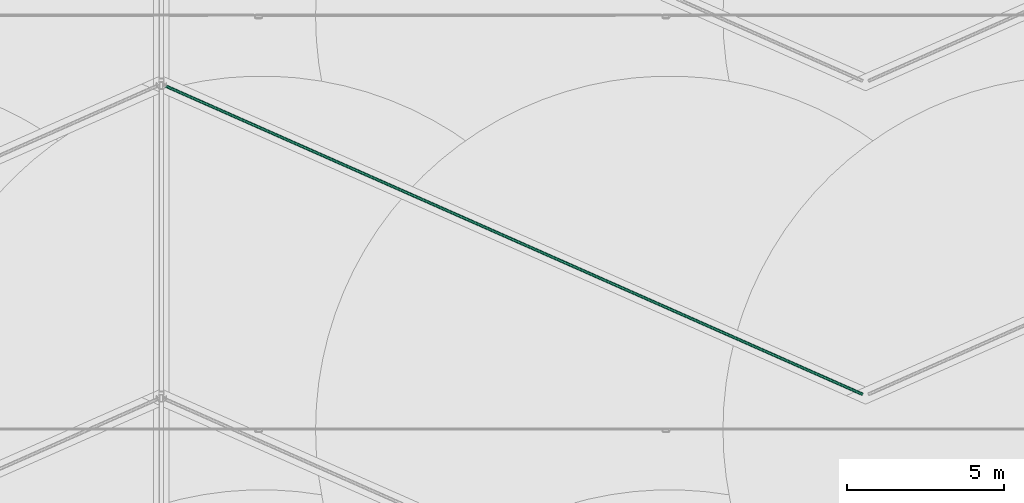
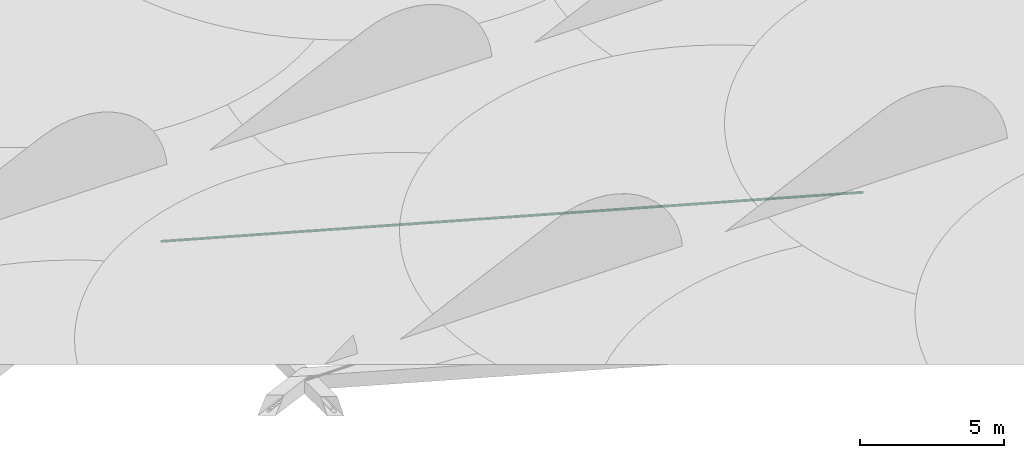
# One storey, part 21 of 166: 1 flow segment.
"""IFC2X3 building model written with IfcOpenShell, lengths in metres."""

from ifc_helpers import new_model, entity, si_unit, converted_unit, direction, frame, frame_2d, origin, place, context, subcontext, project, spatial, circle, extrude, type_object, element, save


model = new_model("IFC2X3")

# Units and contexts
model_context = context("Model", 3, precision=1e-05, world=origin(), true_north=direction((6.123233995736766e-17, 1.0)))
body_context = subcontext(model_context, "Body", "Model", "MODEL_VIEW")
ifc_project = project(units=[si_unit("LENGTHUNIT", "METRE"), converted_unit("PLANEANGLEUNIT", "DEGREE", entity("IfcPlaneAngleMeasure", 0.017453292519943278), si_unit("PLANEANGLEUNIT", "RADIAN"), dimensions=[0, 0, 0, 0, 0, 0, 0]), si_unit("AREAUNIT", "SQUARE_METRE")], contexts=[model_context])

# Site, building, storey
site_placement = place(None, origin())
site = spatial("IfcSite", under=ifc_project, at=site_placement, Name="Default", CompositionType="ELEMENT")
building_placement = place(site_placement, origin())
building = spatial("IfcBuilding", under=site, at=building_placement, Name="CASA DE ACOLHIDA PARA IDOSOS", CompositionType="ELEMENT")
storey_placement = place(building_placement, frame((0.0, 0.0, -1.7499999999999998)))
storey = spatial("IfcBuildingStorey", under=building, at=storey_placement, Name="IMPLANTAÇÃO DRENAGEM", CompositionType="ELEMENT", Elevation=-1.7499999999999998)

# Flow segment
pipe_segment_type = type_object("IfcPipeSegmentType", Name="Tipos de tubos:PLUV_Tubo PEAD Corrugado", PredefinedType="NOTDEFINED")
flow_segment_placement = place(storey_placement, origin())
element("IfcFlowSegment", 1, at=flow_segment_placement, inside=storey, type_object=pipe_segment_type, Name="Tipos de tubos:PLUV_Tubo PEAD Corrugado", ObjectType="Tipos de tubos:PLUV_Tubo PEAD Corrugado", context=body_context, shape_type="SweptSolid", body=[
    extrude(circle(Radius=0.05, at=frame_2d((-5.475317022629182e-17, -1.2378389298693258e-18), x_axis=(1.0, 0.0))), frame((0.40555726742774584, 23.953057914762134, -0.9500099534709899), z_axis=(-0.9144899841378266, 0.4044849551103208, -0.009999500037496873), x_axis=(0.4045051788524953, 0.914535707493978, 0.0)), (0.0, 0.0, 1.0), 24.48022857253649),
])

save(model, "model.ifc")
